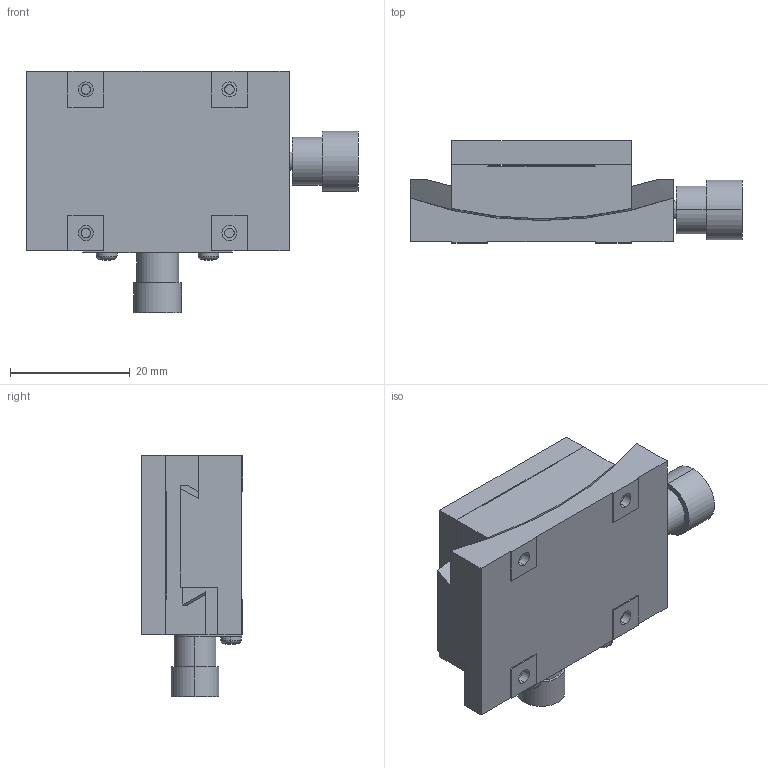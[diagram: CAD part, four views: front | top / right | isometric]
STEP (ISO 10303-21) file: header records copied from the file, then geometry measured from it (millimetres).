
FILE_DESCRIPTION (( 'STEP AP203' ), '1' );
FILE_NAME ('TS-C313.STEP', '2008-02-27T08:23:57', ( '' ), ( '' ), 'SwSTEP 2.0', 'SolidWorks 2007', '' );
FILE_SCHEMA (( 'CONFIG_CONTROL_DESIGN' ));
Length unit declared in the file: millimetre
Products named in the file (4): TS-C313-1_蹬怮椔; TS-C313; TS-C313-2_蹬怮椔; TS-C313-3_蹬怮椔
Assembly tree (3 placements, depth 2):
  TS-C313
    TS-C313-3_蹬怮椔
    TS-C313-1_蹬怮椔
    TS-C313-2_蹬怮椔
Bounding box: 55.5 x 17 x 40.3 mm (x, y, z)
Volume: 19061.8 mm3; surface area: 11307.5 mm2
Topology: 3 solids, 3 shells, 204 faces, 491 edges, 326 vertices
Faces by surface type: cylinder 99, plane 89, cone 8, torus 4, sphere 4
Entity records: 6805 total; most frequent: CARTESIAN_POINT 1405, DIRECTION 1095, ORIENTED_EDGE 982, EDGE_CURVE 491, AXIS2_PLACEMENT_3D 420, VERTEX_POINT 326, EDGE_LOOP 263, VECTOR 255
